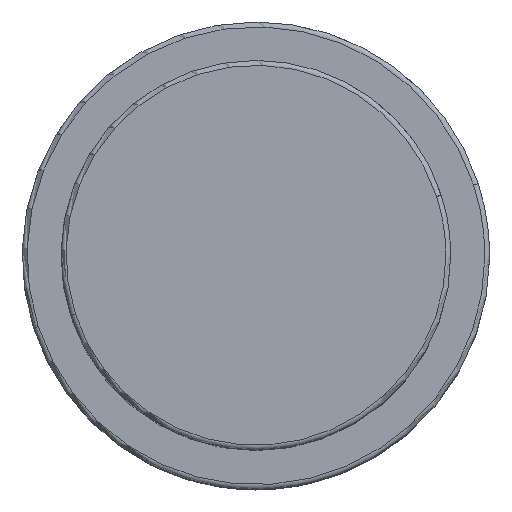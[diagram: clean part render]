
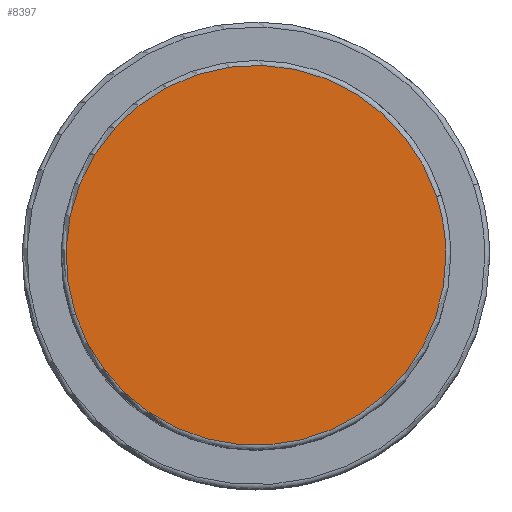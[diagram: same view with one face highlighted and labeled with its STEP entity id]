
A CAD part, top view. The second image highlights one B-rep face of the part: STEP entity #8397.
In plain terms, the highlighted planar face has unit normal (0, 0, 1).
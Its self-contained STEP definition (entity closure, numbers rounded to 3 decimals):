
#8363=CARTESIAN_POINT('',(19.5,0.0,43.5));
#8364=VERTEX_POINT('',#8363);
#8365=CARTESIAN_POINT('',(18.546,6.026,43.5));
#8366=VERTEX_POINT('',#8365);
#8367=CARTESIAN_POINT('',(0.0,0.0,43.5));
#8368=DIRECTION('',(0.0,0.0,1.0));
#8369=DIRECTION('',(1.0,0.0,0.0));
#8370=AXIS2_PLACEMENT_3D('',#8367,#8368,#8369);
#8371=CIRCLE('',#8370,19.5);
#8372=EDGE_CURVE('no 4166',#8364,#8366,#8371,.T.);
#8373=ORIENTED_EDGE('',*,*,#8372,.T.);
#8374=CARTESIAN_POINT('',(-18.546,-6.026,43.5));
#8375=VERTEX_POINT('',#8374);
#8376=CARTESIAN_POINT('',(0.0,0.0,43.5));
#8377=DIRECTION('',(0.0,0.0,1.0));
#8378=DIRECTION('',(1.0,0.0,0.0));
#8379=AXIS2_PLACEMENT_3D('',#8376,#8377,#8378);
#8380=CIRCLE('',#8379,19.5);
#8381=EDGE_CURVE('no 4172',#8366,#8375,#8380,.T.);
#8382=ORIENTED_EDGE('',*,*,#8381,.T.);
#8383=CARTESIAN_POINT('',(0.0,0.0,43.5));
#8384=DIRECTION('',(0.0,0.0,1.0));
#8385=DIRECTION('',(1.0,0.0,0.0));
#8386=AXIS2_PLACEMENT_3D('',#8383,#8384,#8385);
#8387=CIRCLE('',#8386,19.5);
#8388=EDGE_CURVE('no 4176',#8375,#8364,#8387,.T.);
#8389=ORIENTED_EDGE('',*,*,#8388,.T.);
#8390=EDGE_LOOP('',(#8373,#8382,#8389));
#8391=FACE_OUTER_BOUND('',#8390,.T.);
#8392=CARTESIAN_POINT('',(0.0,0.0,43.5));
#8393=DIRECTION('',(0.0,0.0,1.0));
#8394=DIRECTION('',(1.0,0.0,0.0));
#8395=AXIS2_PLACEMENT_3D('',#8392,#8393,#8394);
#8396=PLANE('',#8395);
#8397=ADVANCED_FACE('no 4157',(#8391),#8396,.T.);
